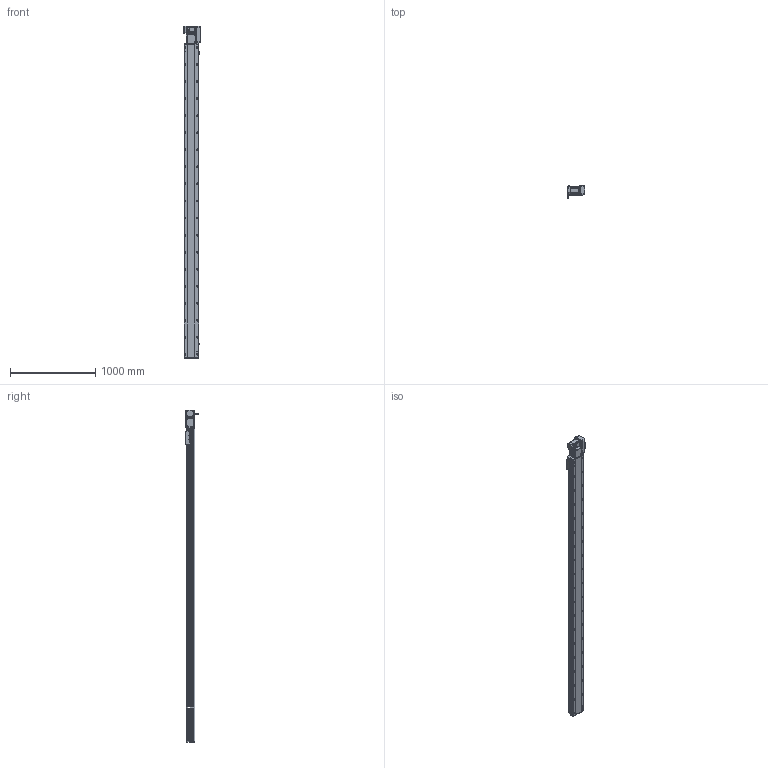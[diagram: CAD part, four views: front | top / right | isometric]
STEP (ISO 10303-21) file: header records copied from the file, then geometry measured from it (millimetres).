
FILE_DESCRIPTION (( 'STEP AP214' ), '1' );
FILE_NAME ('RTB17S-XX-3400-R-M75-C4.STEP', '2025-12-12T01:53:08', ( '' ), ( '' ), 'SwSTEP 2.0', 'SolidWorks 2018', '' );
FILE_SCHEMA (( 'AUTOMOTIVE_DESIGN' ));
Length unit declared in the file: millimetre
Products named in the file (15): RTB17S-L-007奻裔^RTB17S-XX-XX-R-M75-C4; RTB22S-GY-017P^RTB17S-R-々湍釱蚾饜-750W_RTB17S-XX-XX-R-M75-C4; RTB22S-GY-018P^RTB17S-R-々湍釱蚾饜-750W_RTB17S-XX-XX-R-M75-C4; RTB22S-GY-008-M75--萇儂啣^RTB17S-R-々湍釱蚾饜-750W_RTB17S-XX-XX-R-M75-C4; 750W萇儂^RTB17S-XX-XX-R-M75-C4; EE672^RTB17S-XX-XX-R-M75-C4; RTB17S-L-004-賑釱^RTB17S-賑釱_RTB17S-XX-XX-R-M75-C4; RTB17S-賑釱^RTB17S-XX-XX-R-M75-C4; RTB17-R-011菁釱^RTB17S-XX-XX-R-M75-C4; RTB22S-GY-005P^RTB17S-R-々湍釱蚾饜-750W_RTB17S-XX-XX-R-M75-C4; RTH13-BL-012覜茼え俋离^RTB17S-賑釱_RTB17S-XX-XX-R-M75-C4; RTB17S-L-014-T20-P75--々湍釱^RTB17S-R-々湍釱蚾饜-750W_RTB17S-XX-XX-R-M75-C4; RTB17S-L-001-耜醱啣^RTB17S-XX-XX-R-M75-C4; RTB17S-R-々湍釱蚾饜-750W^RTB17S-XX-XX-R-M75-C4; RTB17S-XX-3400-R-M75-C4
Assembly tree (17 placements, depth 3):
  RTB17S-XX-3400-R-M75-C4
    RTB17-R-011菁釱^RTB17S-XX-XX-R-M75-C4
    EE672^RTB17S-XX-XX-R-M75-C4  x3
    RTB17S-L-001-耜醱啣^RTB17S-XX-XX-R-M75-C4
    RTB17S-賑釱^RTB17S-XX-XX-R-M75-C4
      RTB17S-L-004-賑釱^RTB17S-賑釱_RTB17S-XX-XX-R-M75-C4
      RTH13-BL-012覜茼え俋离^RTB17S-賑釱_RTB17S-XX-XX-R-M75-C4
    RTB17S-L-007奻裔^RTB17S-XX-XX-R-M75-C4
    750W萇儂^RTB17S-XX-XX-R-M75-C4
    RTB17S-R-々湍釱蚾饜-750W^RTB17S-XX-XX-R-M75-C4
      RTB17S-L-014-T20-P75--々湍釱^RTB17S-R-々湍釱蚾饜-750W_RTB17S-XX-XX-R-M75-C4
      RTB22S-GY-005P^RTB17S-R-々湍釱蚾饜-750W_RTB17S-XX-XX-R-M75-C4
      RTB22S-GY-017P^RTB17S-R-々湍釱蚾饜-750W_RTB17S-XX-XX-R-M75-C4  x2
      RTB22S-GY-008-M75--萇儂啣^RTB17S-R-々湍釱蚾饜-750W_RTB17S-XX-XX-R-M75-C4
      RTB22S-GY-018P^RTB17S-R-々湍釱蚾饜-750W_RTB17S-XX-XX-R-M75-C4
Bounding box: 207.4 x 152.7 x 3899 mm (x, y, z)
Volume: 27206541.4 mm3; surface area: 5018009.9 mm2
Topology: 17 solids, 17 shells, 2281 faces, 6430 edges, 4166 vertices
Faces by surface type: plane 994, cylinder 871, bspline 294, cone 110, sphere 8, torus 4
Entity records: 67318 total; most frequent: CARTESIAN_POINT 20094, ORIENTED_EDGE 9704, DIRECTION 8942, EDGE_CURVE 4852, AXIS2_PLACEMENT_3D 3186, VERTEX_POINT 3170, LINE 2570, VECTOR 2570
